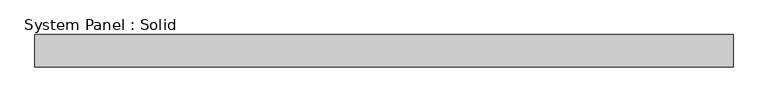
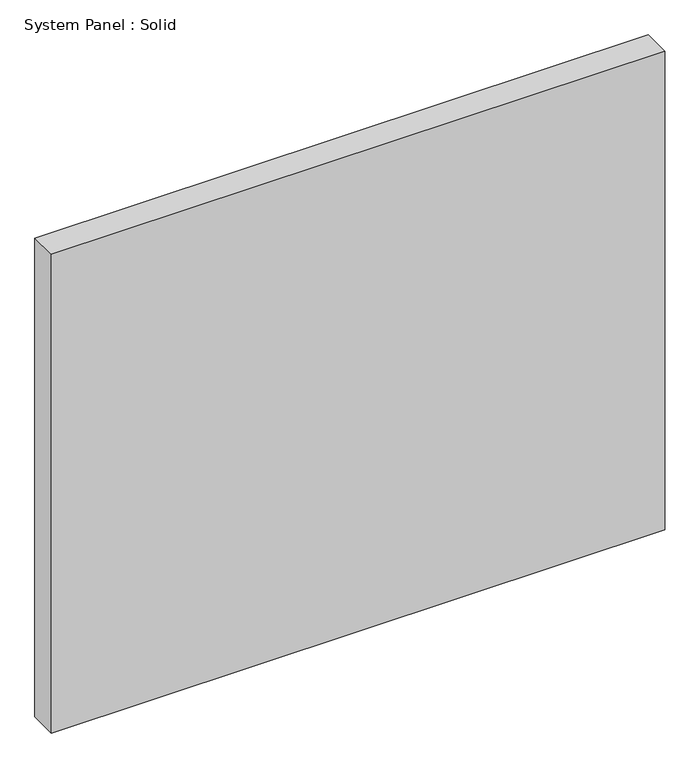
"""IFC4 building model written with IfcOpenShell, lengths in millimetres: plate geometry, System Panel : Solid."""

from ifc_helpers import new_model, si_unit, origin, origin_with_axes, place, context, project, spatial, polyline, outline, extrude, source, transform, mapped, element, save


def system_panel_solid_bf438204(model_context):
    return source(origin(), model_context, "Body", "SweptSolid", [
        extrude(outline(polyline([(681.2988156, -19.05), (-681.2988156, -19.05), (-681.2988156, 44.45), (681.2988156, 44.45), (681.2988156, -19.05)])), origin_with_axes(), (0.0, 0.0, 1.0), 1123.95),
    ])


if __name__ == "__main__":
    model = new_model("IFC4")
    model_context = context("Model", 3, world=origin())
    ifc_project = project(units=[si_unit("LENGTHUNIT", "METRE", prefix="MILLI")], contexts=[model_context])
    site = spatial("IfcSite", under=ifc_project)
    building = spatial("IfcBuilding", under=site)
    placement = place(None, origin())
    system_panel_solid_shape = system_panel_solid_bf438204(model_context)
    element("IfcPlate", 1, ObjectType="System Panel : Solid", at=placement, inside=building, context=model_context, shape_type="MappedRepresentation", body=[
        mapped(system_panel_solid_shape, transform((0.0, 0.0, 0.0), x_axis=(1.0, 0.0, 0.0), y_axis=(0.0, 1.0, 0.0), z_axis=(0.0, 0.0, 1.0))),
    ])
    save(model, "model.ifc")
